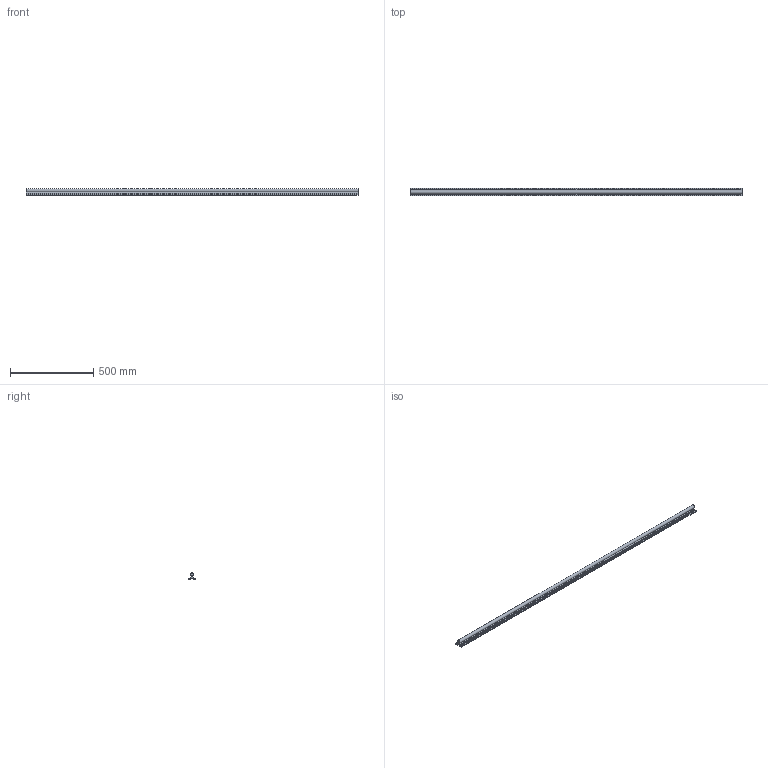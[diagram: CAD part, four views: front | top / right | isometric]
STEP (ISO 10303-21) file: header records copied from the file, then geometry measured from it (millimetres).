
FILE_DESCRIPTION(/* description */ (''),/* implementation_level */ '2;1');
FILE_NAME(/* name */ 'C:\Users\David\Desktop\stepFiles\Profilfuehrung\LFS20x2000.stp',/* time_stamp */ '2018-06-24T15:22:04+02:00',/* author */ ('Buskamp'),/* organization */ (''),/* preprocessor_version */ 'ST-DEVELOPER v17',/* originating_system */ 'Autodesk Inventor 2019',/* authorisation */ '');
FILE_SCHEMA (('AUTOMOTIVE_DESIGN { 1 0 10303 214 3 1 1 }'));
Length unit declared in the file: millimetre
Products named in the file (1): Linearführung D20xvariabel
Bounding box: 2000 x 45 x 37 mm (x, y, z)
Volume: 1292072.8 mm3; surface area: 354483.3 mm2
Topology: 1 solids, 1 shells, 154 faces, 536 edges, 356 vertices
Faces by surface type: plane 109, cylinder 29, cone 16
Full cylindrical faces by diameter (mm): 5.5 x28
Entity records: 5981 total; most frequent: CARTESIAN_POINT 1111, ORIENTED_EDGE 1072, DIRECTION 1028, EDGE_CURVE 536, AXIS2_PLACEMENT_3D 369, VERTEX_POINT 356, LINE 290, VECTOR 290
